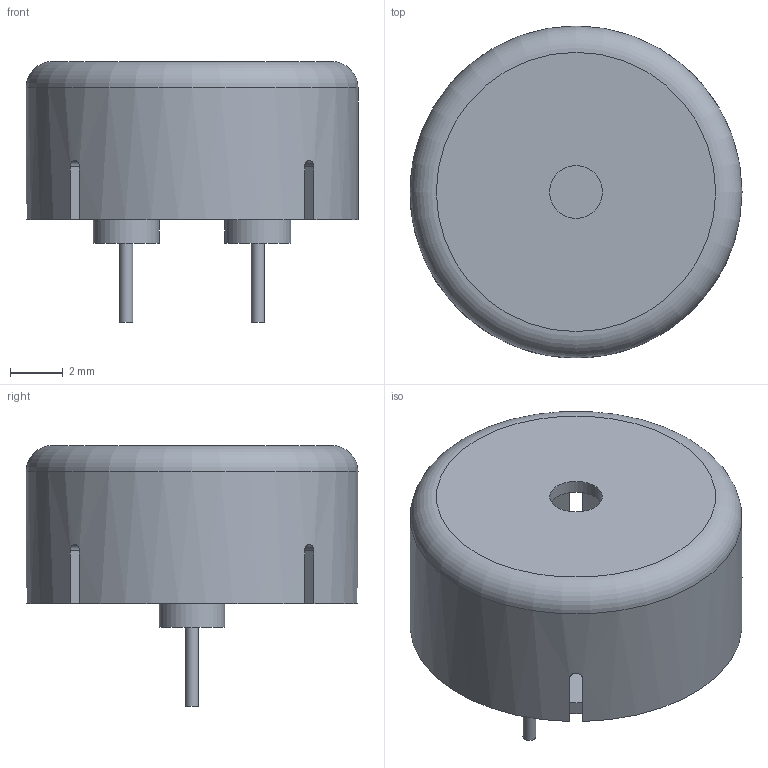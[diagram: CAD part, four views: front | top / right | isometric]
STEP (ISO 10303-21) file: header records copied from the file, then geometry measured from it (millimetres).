
FILE_DESCRIPTION(/* description */ (''),/* implementation_level */ '2;1');
FILE_NAME(/* name */ 'C:/Users/mak/Desktop/乾燥実験/KiCAD/部品図面/Buzzer_Murata_PKM13EPYH4000-A0_D13.0mm_H6.9mm v2.step',/* time_stamp */ '2022-05-04T18:29:58+09:00',/* author */ (''),/* organization */ (''),/* preprocessor_version */ 'ST-DEVELOPER v18.1',/* originating_system */ 'Autodesk Translation Framework v10.14.0.1471',/* authorisation */ '');
FILE_SCHEMA (('AUTOMOTIVE_DESIGN { 1 0 10303 214 3 1 1 }'));
Length unit declared in the file: millimetre
Products named in the file (1): Buzzer_Murata_PKM13EPYH4000-A0_D13.0mm_H6.9mm
Bounding box: 12.6 x 12.6 x 9.9 mm (x, y, z)
Volume: 219.5 mm3; surface area: 925.6 mm2
Topology: 4 solids, 4 shells, 40 faces, 98 edges, 68 vertices
Faces by surface type: plane 22, cylinder 16, torus 2
Full cylindrical faces by diameter (mm): 0.5 x4, 1 x2, 2 x1, 2.5 x2, 11.6 x2, 12.6 x1
Entity records: 1388 total; most frequent: CARTESIAN_POINT 351, DIRECTION 202, ORIENTED_EDGE 196, EDGE_CURVE 98, AXIS2_PLACEMENT_3D 79, VERTEX_POINT 68, EDGE_LOOP 52, LINE 44
